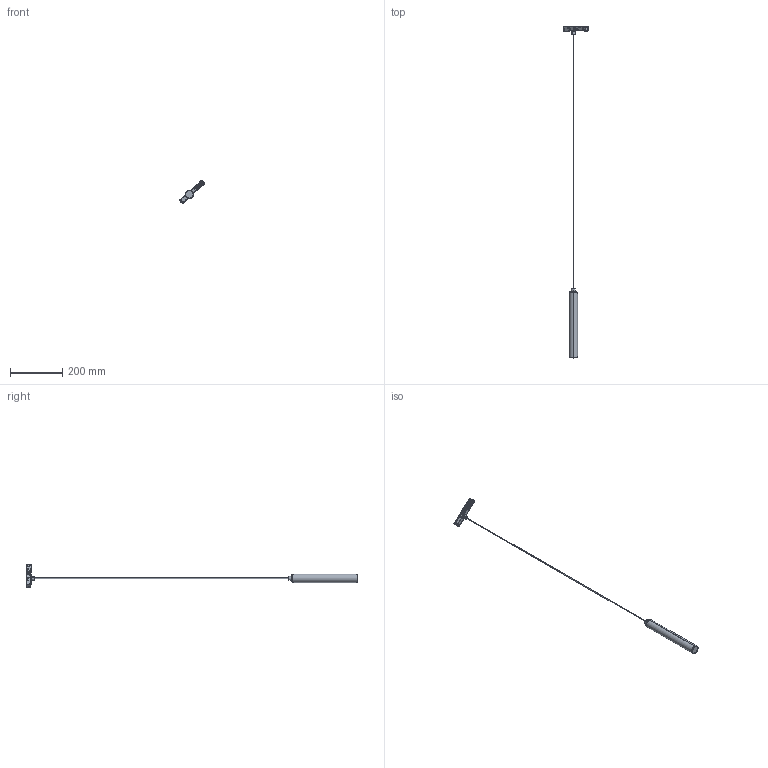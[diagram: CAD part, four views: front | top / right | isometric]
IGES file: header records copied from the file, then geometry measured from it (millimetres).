
Start section: SolidWorks IGES file using analytic representation for surfaces
Global section: file name: C:\Users\Agustin\Desktop\ANGELA\2026\ARQUITECTURAL\MIKU\3D\MIKU_track.IGS; native system: SolidWorks 2023; preprocessor: SolidWorks 2023; author: Agustin; date: 260430.083938; units: millimetre
Bounding box: 95.26 x 1272.58 x 88.59 mm (x, y, z)
Surface area: 89388.5 mm2 (no closed solid volume)
Topology: 0 solids, 0 shells, 1575 faces, 12087 edges, 12058 vertices
Faces by surface type: bspline 1304, revolution 271
